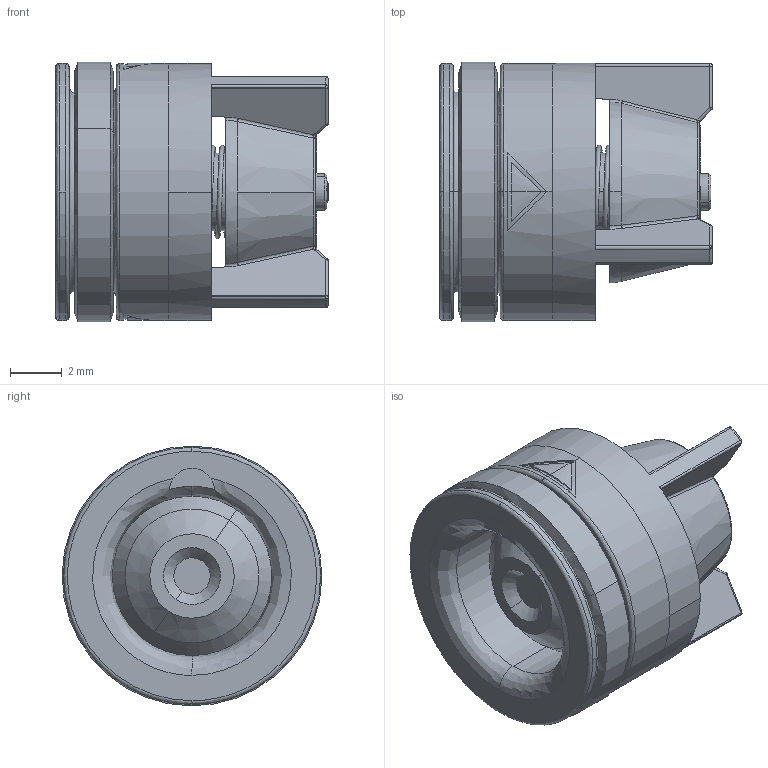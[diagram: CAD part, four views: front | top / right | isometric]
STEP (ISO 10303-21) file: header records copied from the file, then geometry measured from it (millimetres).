
FILE_DESCRIPTION (( 'STEP AP203' ), '1' );
FILE_NAME ('C0010-W149010630.STEP', '2020-04-08T13:35:32', ( '' ), ( '' ), 'SwSTEP 2.0', 'SolidWorks 2017', '' );
FILE_SCHEMA (( 'CONFIG_CONTROL_DESIGN' ));
Length unit declared in the file: metre
Products named in the file (7): FUR_FRVIR_0000001114_7x1.5Spl(CO10); C0010-W149010630; PRT_FRVIR_0000007769; PRT_FRVIR_0000008093; PRT_FRVIR_0000008092; Pièce3^ASM_FRVIR_0000002616; PRT_FRVIR_0000007766
Assembly tree (6 placements, depth 2):
  C0010-W149010630
    PRT_FRVIR_0000008092
    PRT_FRVIR_0000007766
    PRT_FRVIR_0000007769
    FUR_FRVIR_0000001114_7x1.5Spl(CO10)
    PRT_FRVIR_0000008093
    Pièce3^ASM_FRVIR_0000002616
Bounding box: 10.5 x 10 x 10 mm (x, y, z)
Volume: 351.1 mm3; surface area: 1264.2 mm2
Topology: 6 solids, 6 shells, 433 faces, 1063 edges, 652 vertices
Faces by surface type: bspline 182, plane 140, cylinder 72, cone 39
Entity records: 22571 total; most frequent: CARTESIAN_POINT 13063, ORIENTED_EDGE 2094, DIRECTION 1441, EDGE_CURVE 1047, VERTEX_POINT 652, AXIS2_PLACEMENT_3D 524, EDGE_LOOP 473, ADVANCED_FACE 433
